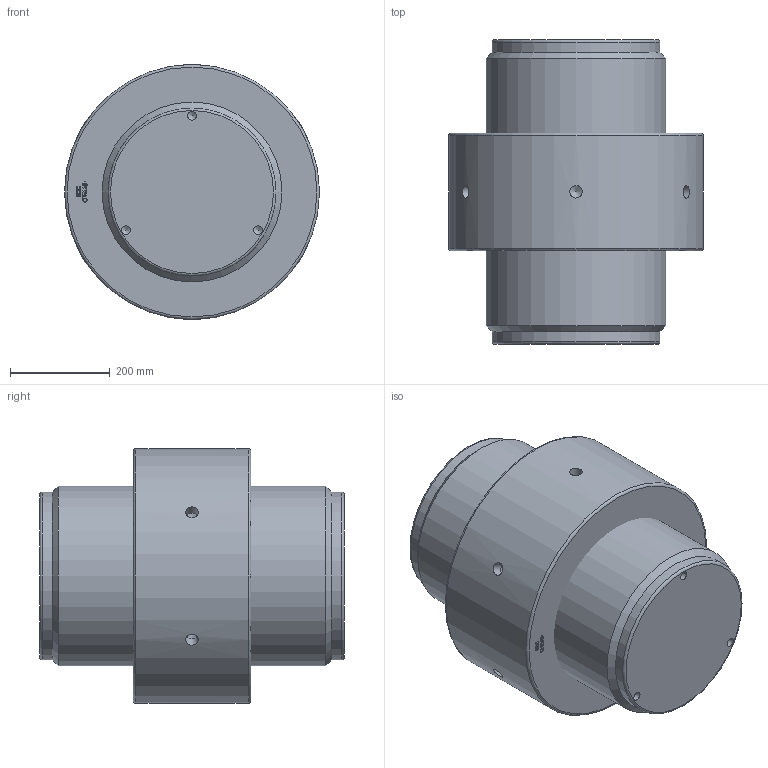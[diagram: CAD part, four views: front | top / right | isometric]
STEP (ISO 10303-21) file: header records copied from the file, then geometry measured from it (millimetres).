
FILE_DESCRIPTION(/* description */ (''),/* implementation_level */ '2;1');
FILE_NAME(/* name */ 'F:\Clienti LS\Redaelli\CYT\CYT\ARRNGEMENT\CYT116 61 061 0.stp',/* time_stamp */ '2021-05-09T08:55:42+02:00',/* author */ ('ranca'),/* organization */ (''),/* preprocessor_version */ 'ST-DEVELOPER v16.13',/* originating_system */ 'Autodesk Inventor 2018',/* authorisation */ '');
FILE_SCHEMA (('AUTOMOTIVE_DESIGN { 1 0 10303 214 3 1 1 }'));
Length unit declared in the file: millimetre
Products named in the file (3): CYT012-61-061-0; CYT012-61-061-0_1; CYT012-61-061-0_DADO
Assembly tree (2 placements, depth 2):
  CYT012-61-061-0
    CYT012-61-061-0_1
    CYT012-61-061-0_DADO
Bounding box: 510 x 609 x 510 mm (x, y, z)
Volume: 85965756.6 mm3; surface area: 1731928.6 mm2
Topology: 2 solids, 2 shells, 340 faces, 932 edges, 620 vertices
Faces by surface type: bspline 166, plane 145, cylinder 14, cone 11, torus 4
Full cylindrical faces by diameter (mm): 17.294 x3, 25 x6, 336 x2, 353.505 x1, 360 x1, 510 x1
Entity records: 11570 total; most frequent: CARTESIAN_POINT 4204, ORIENTED_EDGE 1774, DIRECTION 927, EDGE_CURVE 887, VERTEX_POINT 604, LINE 517, VECTOR 517, EDGE_LOOP 395
